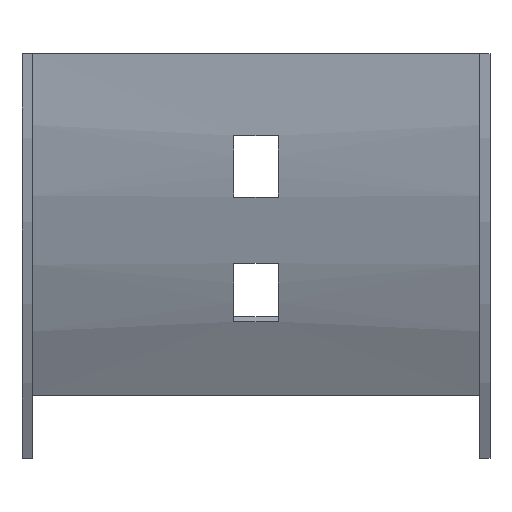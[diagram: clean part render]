
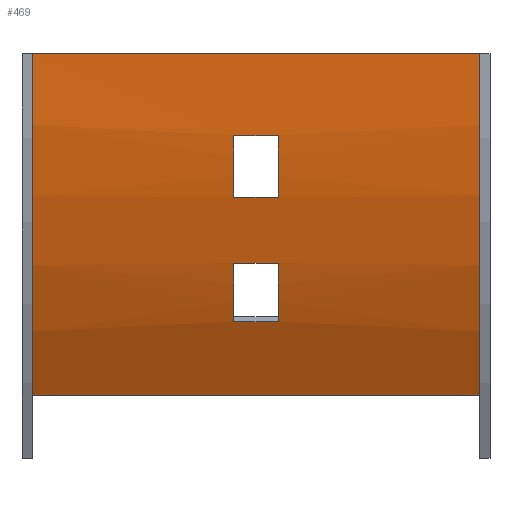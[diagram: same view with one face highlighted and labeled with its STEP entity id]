
A CAD part, front view. The second image highlights one B-rep face of the part: STEP entity #469.
In plain terms, the highlighted cylindrical face has radius 100 mm (diameter 200 mm), a partial arc.
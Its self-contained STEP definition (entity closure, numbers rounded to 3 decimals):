
#2 = ORIENTED_EDGE ( 'NONE', *, *, #465, .F. ) ;
#6 = DIRECTION ( 'NONE',  ( 0., 0., 1. ) ) ;
#8 = VERTEX_POINT ( 'NONE', #92 ) ;
#18 = CIRCLE ( 'NONE', #42, 100. ) ;
#34 = EDGE_CURVE ( 'NONE', #253, #471, #497, .T. ) ;
#36 = LINE ( 'NONE', #312, #373 ) ;
#39 = FACE_OUTER_BOUND ( 'NONE', #563, .T. ) ;
#42 = AXIS2_PLACEMENT_3D ( 'NONE', #426, #152, #529 ) ;
#45 = DIRECTION ( 'NONE',  ( -1., 0., 0. ) ) ;
#53 = CIRCLE ( 'NONE', #250, 100. ) ;
#54 = VERTEX_POINT ( 'NONE', #87 ) ;
#56 = LINE ( 'NONE', #538, #590 ) ;
#58 = DIRECTION ( 'NONE',  ( 0., 0., -1. ) ) ;
#63 = ORIENTED_EDGE ( 'NONE', *, *, #72, .T. ) ;
#70 = VECTOR ( 'NONE', #382, 1000. ) ;
#72 = EDGE_CURVE ( 'NONE', #102, #156, #331, .T. ) ;
#85 = DIRECTION ( 'NONE',  ( 0., 0., -1. ) ) ;
#87 = CARTESIAN_POINT ( 'NONE',  ( -32.75, 11.897, -50. ) ) ;
#88 = VECTOR ( 'NONE', #249, 1000. ) ;
#91 = ORIENTED_EDGE ( 'NONE', *, *, #236, .T. ) ;
#92 = CARTESIAN_POINT ( 'NONE',  ( 3.25, 3.329, -30.699 ) ) ;
#93 = CYLINDRICAL_SURFACE ( 'NONE', #311, 100. ) ;
#97 = LINE ( 'NONE', #282, #540 ) ;
#98 = VERTEX_POINT ( 'NONE', #306 ) ;
#102 = VERTEX_POINT ( 'NONE', #451 ) ;
#114 = EDGE_CURVE ( 'NONE', #572, #8, #36, .T. ) ;
#116 = EDGE_CURVE ( 'NONE', #408, #98, #53, .T. ) ;
#117 = CIRCLE ( 'NONE', #285, 100. ) ;
#121 = ORIENTED_EDGE ( 'NONE', *, *, #183, .F. ) ;
#124 = ORIENTED_EDGE ( 'NONE', *, *, #489, .F. ) ;
#134 = CARTESIAN_POINT ( 'NONE',  ( 34.25, 6.523, -39.246 ) ) ;
#141 = FACE_BOUND ( 'NONE', #496, .T. ) ;
#148 = DIRECTION ( 'NONE',  ( -1., 0., 0. ) ) ;
#149 = CIRCLE ( 'NONE', #363, 100. ) ;
#152 = DIRECTION ( 'NONE',  ( 1., 0., 0. ) ) ;
#155 = CARTESIAN_POINT ( 'NONE',  ( 32.75, -1.5, 0. ) ) ;
#156 = VERTEX_POINT ( 'NONE', #475 ) ;
#182 = FACE_BOUND ( 'NONE', #323, .T. ) ;
#183 = EDGE_CURVE ( 'NONE', #98, #247, #579, .T. ) ;
#186 = CARTESIAN_POINT ( 'NONE',  ( -3.25, 6.523, -39.246 ) ) ;
#187 = ORIENTED_EDGE ( 'NONE', *, *, #575, .F. ) ;
#203 = ORIENTED_EDGE ( 'NONE', *, *, #116, .F. ) ;
#204 = DIRECTION ( 'NONE',  ( -1., 0., 0. ) ) ;
#222 = ORIENTED_EDGE ( 'NONE', *, *, #420, .F. ) ;
#233 = DIRECTION ( 'NONE',  ( -1., 0., 0. ) ) ;
#236 = EDGE_CURVE ( 'NONE', #471, #572, #509, .T. ) ;
#238 = DIRECTION ( 'NONE',  ( 1., 0., 0. ) ) ;
#247 = VERTEX_POINT ( 'NONE', #524 ) ;
#249 = DIRECTION ( 'NONE',  ( 1., 0., 0. ) ) ;
#250 = AXIS2_PLACEMENT_3D ( 'NONE', #381, #238, #6 ) ;
#253 = VERTEX_POINT ( 'NONE', #582 ) ;
#275 = CARTESIAN_POINT ( 'NONE',  ( 32.75, 98.5, 0. ) ) ;
#276 = CARTESIAN_POINT ( 'NONE',  ( 34.25, 98.5, 0. ) ) ;
#282 = CARTESIAN_POINT ( 'NONE',  ( 32.75, 11.897, -50. ) ) ;
#285 = AXIS2_PLACEMENT_3D ( 'NONE', #376, #508, #456 ) ;
#288 = CARTESIAN_POINT ( 'NONE',  ( -3.25, 98.5, 0. ) ) ;
#295 = VERTEX_POINT ( 'NONE', #356 ) ;
#306 = CARTESIAN_POINT ( 'NONE',  ( -3.25, 0.73, -21. ) ) ;
#311 = AXIS2_PLACEMENT_3D ( 'NONE', #276, #233, #415 ) ;
#312 = CARTESIAN_POINT ( 'NONE',  ( 34.25, 3.329, -30.699 ) ) ;
#323 = EDGE_LOOP ( 'NONE', ( #203, #187, #2, #121 ) ) ;
#331 = CIRCLE ( 'NONE', #421, 100. ) ;
#346 = VECTOR ( 'NONE', #547, 1000. ) ;
#356 = CARTESIAN_POINT ( 'NONE',  ( 3.25, -0.777, -12. ) ) ;
#360 = AXIS2_PLACEMENT_3D ( 'NONE', #288, #204, #58 ) ;
#362 = ORIENTED_EDGE ( 'NONE', *, *, #589, .T. ) ;
#363 = AXIS2_PLACEMENT_3D ( 'NONE', #549, #561, #85 ) ;
#366 = VERTEX_POINT ( 'NONE', #494 ) ;
#370 = DIRECTION ( 'NONE',  ( 0., 0., 1. ) ) ;
#373 = VECTOR ( 'NONE', #455, 1000. ) ;
#376 = CARTESIAN_POINT ( 'NONE',  ( -32.75, 98.5, 0. ) ) ;
#381 = CARTESIAN_POINT ( 'NONE',  ( -3.25, 98.5, 0. ) ) ;
#382 = DIRECTION ( 'NONE',  ( -1., 0., 0. ) ) ;
#391 = LINE ( 'NONE', #155, #70 ) ;
#407 = ORIENTED_EDGE ( 'NONE', *, *, #34, .T. ) ;
#408 = VERTEX_POINT ( 'NONE', #418 ) ;
#415 = DIRECTION ( 'NONE',  ( 0., 0., 1. ) ) ;
#418 = CARTESIAN_POINT ( 'NONE',  ( -3.25, -0.777, -12. ) ) ;
#420 = EDGE_CURVE ( 'NONE', #54, #366, #117, .T. ) ;
#421 = AXIS2_PLACEMENT_3D ( 'NONE', #275, #45, #370 ) ;
#426 = CARTESIAN_POINT ( 'NONE',  ( 3.25, 98.5, 0. ) ) ;
#436 = CARTESIAN_POINT ( 'NONE',  ( -3.25, 3.329, -30.699 ) ) ;
#451 = CARTESIAN_POINT ( 'NONE',  ( 32.75, 11.897, -50. ) ) ;
#455 = DIRECTION ( 'NONE',  ( 1., 0., 0. ) ) ;
#456 = DIRECTION ( 'NONE',  ( 0., 0., 1. ) ) ;
#465 = EDGE_CURVE ( 'NONE', #247, #295, #149, .T. ) ;
#468 = CARTESIAN_POINT ( 'NONE',  ( 34.25, 0.73, -21. ) ) ;
#469 = ADVANCED_FACE ( 'NONE', ( #182, #39, #141 ), #93, .T. ) ;
#471 = VERTEX_POINT ( 'NONE', #186 ) ;
#475 = CARTESIAN_POINT ( 'NONE',  ( 32.75, -1.5, 0. ) ) ;
#478 = DIRECTION ( 'NONE',  ( -1., 0., 0. ) ) ;
#489 = EDGE_CURVE ( 'NONE', #102, #54, #97, .T. ) ;
#494 = CARTESIAN_POINT ( 'NONE',  ( -32.75, -1.5, 0. ) ) ;
#496 = EDGE_LOOP ( 'NONE', ( #407, #91, #515, #362 ) ) ;
#497 = LINE ( 'NONE', #134, #346 ) ;
#508 = DIRECTION ( 'NONE',  ( -1., 0., 0. ) ) ;
#509 = CIRCLE ( 'NONE', #360, 100. ) ;
#515 = ORIENTED_EDGE ( 'NONE', *, *, #114, .T. ) ;
#524 = CARTESIAN_POINT ( 'NONE',  ( 3.25, 0.73, -21. ) ) ;
#529 = DIRECTION ( 'NONE',  ( 0., 0., 1. ) ) ;
#538 = CARTESIAN_POINT ( 'NONE',  ( 34.25, -0.777, -12. ) ) ;
#540 = VECTOR ( 'NONE', #478, 1000. ) ;
#546 = ORIENTED_EDGE ( 'NONE', *, *, #554, .T. ) ;
#547 = DIRECTION ( 'NONE',  ( -1., 0., 0. ) ) ;
#549 = CARTESIAN_POINT ( 'NONE',  ( 3.25, 98.5, 0. ) ) ;
#554 = EDGE_CURVE ( 'NONE', #156, #366, #391, .T. ) ;
#561 = DIRECTION ( 'NONE',  ( -1., 0., 0. ) ) ;
#563 = EDGE_LOOP ( 'NONE', ( #222, #124, #63, #546 ) ) ;
#572 = VERTEX_POINT ( 'NONE', #436 ) ;
#575 = EDGE_CURVE ( 'NONE', #295, #408, #56, .T. ) ;
#579 = LINE ( 'NONE', #468, #88 ) ;
#582 = CARTESIAN_POINT ( 'NONE',  ( 3.25, 6.523, -39.246 ) ) ;
#589 = EDGE_CURVE ( 'NONE', #8, #253, #18, .T. ) ;
#590 = VECTOR ( 'NONE', #148, 1000. ) ;
